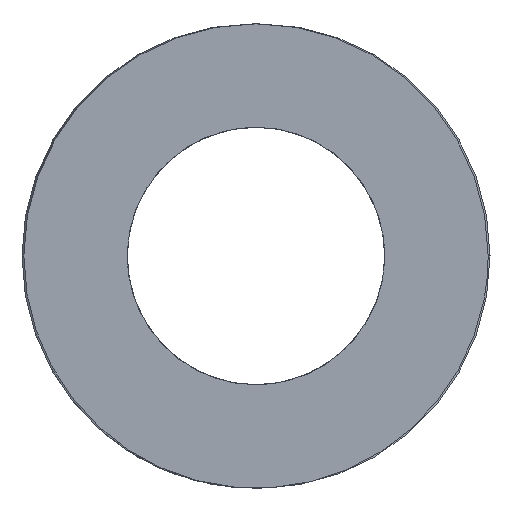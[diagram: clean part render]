
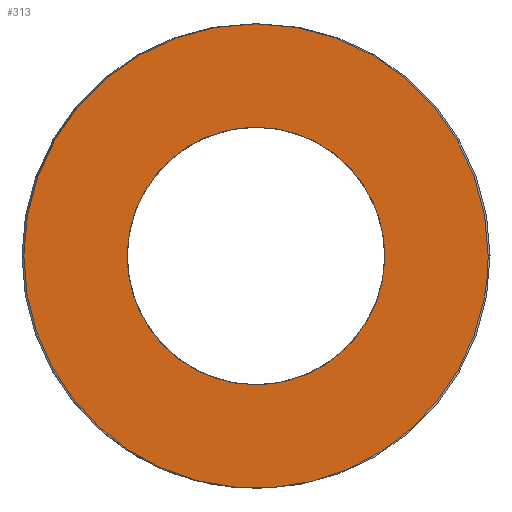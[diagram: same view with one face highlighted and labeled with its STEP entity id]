
A CAD part, left-side view. The second image highlights one B-rep face of the part: STEP entity #313.
In plain terms, the highlighted planar face has unit normal (-1, 0, 0).
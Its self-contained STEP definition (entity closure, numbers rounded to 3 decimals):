
#63=CARTESIAN_POINT('Vertex',(0.,9.2,0.)) ;
#89=CARTESIAN_POINT('Vertex',(0.,-9.2,0.)) ;
#93=CARTESIAN_POINT('Control Point',(0.,9.2,0.)) ;
#94=CARTESIAN_POINT('Control Point',(0.,9.2,-1.445)) ;
#95=CARTESIAN_POINT('Control Point',(0.,8.916,-2.89)) ;
#96=CARTESIAN_POINT('Control Point',(0.,8.348,-4.261)) ;
#97=CARTESIAN_POINT('Control Point',(0.,6.706,-6.706)) ;
#98=CARTESIAN_POINT('Control Point',(0.,4.261,-8.348)) ;
#99=CARTESIAN_POINT('Control Point',(0.,2.89,-8.916)) ;
#100=CARTESIAN_POINT('Control Point',(0.,0.,-9.484)) ;
#101=CARTESIAN_POINT('Control Point',(0.,-2.89,-8.916)) ;
#102=CARTESIAN_POINT('Control Point',(0.,-4.261,-8.348)) ;
#103=CARTESIAN_POINT('Control Point',(0.,-6.706,-6.706)) ;
#104=CARTESIAN_POINT('Control Point',(0.,-8.348,-4.261)) ;
#105=CARTESIAN_POINT('Control Point',(0.,-8.916,-2.89)) ;
#106=CARTESIAN_POINT('Control Point',(0.,-9.2,-1.445)) ;
#107=CARTESIAN_POINT('Control Point',(0.,-9.2,0.)) ;
#121=CARTESIAN_POINT('Axis2P3D Location',(0.,0.,0.)) ;
#250=CARTESIAN_POINT('Axis2P3D Location',(0.,4.6,0.)) ;
#260=CARTESIAN_POINT('Control Point',(0.,0.,-5.1)) ;
#261=CARTESIAN_POINT('Control Point',(0.,0.553,-5.1)) ;
#262=CARTESIAN_POINT('Control Point',(0.,1.106,-5.025)) ;
#263=CARTESIAN_POINT('Control Point',(0.,1.646,-4.875)) ;
#264=CARTESIAN_POINT('Control Point',(0.,2.671,-4.432)) ;
#265=CARTESIAN_POINT('Control Point',(0.,3.541,-3.733)) ;
#266=CARTESIAN_POINT('Control Point',(0.,3.926,-3.326)) ;
#267=CARTESIAN_POINT('Control Point',(0.,4.575,-2.418)) ;
#268=CARTESIAN_POINT('Control Point',(0.,4.96,-1.37)) ;
#269=CARTESIAN_POINT('Control Point',(0.,5.079,-0.822)) ;
#270=CARTESIAN_POINT('Control Point',(0.,5.167,0.291)) ;
#271=CARTESIAN_POINT('Control Point',(0.,4.955,1.387)) ;
#272=CARTESIAN_POINT('Control Point',(0.,4.775,1.917)) ;
#273=CARTESIAN_POINT('Control Point',(0.,4.275,2.916)) ;
#274=CARTESIAN_POINT('Control Point',(0.,3.528,3.745)) ;
#275=CARTESIAN_POINT('Control Point',(0.,3.1,4.106)) ;
#276=CARTESIAN_POINT('Control Point',(0.,2.255,4.642)) ;
#277=CARTESIAN_POINT('Control Point',(0.,1.309,4.959)) ;
#278=CARTESIAN_POINT('Control Point',(0.,0.877,5.053)) ;
#279=CARTESIAN_POINT('Control Point',(0.,0.439,5.1)) ;
#280=CARTESIAN_POINT('Control Point',(0.,0.,5.1)) ;
#281=CARTESIAN_POINT('Vertex',(0.,0.,-5.1)) ;
#283=CARTESIAN_POINT('Vertex',(0.,0.,5.1)) ;
#287=CARTESIAN_POINT('Control Point',(0.,0.,5.1)) ;
#288=CARTESIAN_POINT('Control Point',(0.,-0.553,5.1)) ;
#289=CARTESIAN_POINT('Control Point',(0.,-1.106,5.025)) ;
#290=CARTESIAN_POINT('Control Point',(0.,-1.646,4.875)) ;
#291=CARTESIAN_POINT('Control Point',(0.,-2.671,4.432)) ;
#292=CARTESIAN_POINT('Control Point',(0.,-3.541,3.733)) ;
#293=CARTESIAN_POINT('Control Point',(0.,-3.926,3.326)) ;
#294=CARTESIAN_POINT('Control Point',(0.,-4.575,2.418)) ;
#295=CARTESIAN_POINT('Control Point',(0.,-4.96,1.37)) ;
#296=CARTESIAN_POINT('Control Point',(0.,-5.079,0.822)) ;
#297=CARTESIAN_POINT('Control Point',(0.,-5.167,-0.291)) ;
#298=CARTESIAN_POINT('Control Point',(0.,-4.955,-1.387)) ;
#299=CARTESIAN_POINT('Control Point',(0.,-4.775,-1.917)) ;
#300=CARTESIAN_POINT('Control Point',(0.,-4.275,-2.916)) ;
#301=CARTESIAN_POINT('Control Point',(0.,-3.528,-3.745)) ;
#302=CARTESIAN_POINT('Control Point',(0.,-3.1,-4.106)) ;
#303=CARTESIAN_POINT('Control Point',(0.,-2.255,-4.642)) ;
#304=CARTESIAN_POINT('Control Point',(0.,-1.309,-4.959)) ;
#305=CARTESIAN_POINT('Control Point',(0.,-0.877,-5.053)) ;
#306=CARTESIAN_POINT('Control Point',(0.,-0.439,-5.1)) ;
#307=CARTESIAN_POINT('Control Point',(0.,0.,-5.1)) ;
#122=DIRECTION('Axis2P3D Direction',(1.,-0.,0.)) ;
#251=DIRECTION('Axis2P3D Direction',(-1.,0.,0.)) ;
#252=DIRECTION('Axis2P3D XDirection',(0.,1.,0.)) ;
#123=AXIS2_PLACEMENT_3D('Circle Axis2P3D',#121,#122,$) ;
#253=AXIS2_PLACEMENT_3D('Plane Axis2P3D',#250,#251,#252) ;
#256=ORIENTED_EDGE('',*,*,#108,.T.) ;
#257=ORIENTED_EDGE('',*,*,#125,.T.) ;
#310=ORIENTED_EDGE('',*,*,#285,.T.) ;
#311=ORIENTED_EDGE('',*,*,#308,.T.) ;
#312=FACE_BOUND('',#309,.T.) ;
#313=ADVANCED_FACE('392-B20-305',(#258,#312),#254,.T.) ;
#92=B_SPLINE_CURVE_WITH_KNOTS('',5,(#93,#94,#95,#96,#97,#98,#99,#100,#101,#102,#103,#104,#105,#106,#107),.UNSPECIFIED.,.F.,.U.,(6,3,3,3,6),(-14.451,-7.226,0.,7.226,14.451),.UNSPECIFIED.) ;
#259=B_SPLINE_CURVE_WITH_KNOTS('',5,(#260,#261,#262,#263,#264,#265,#266,#267,#268,#269,#270,#271,#272,#273,#274,#275,#276,#277,#278,#279,#280),.UNSPECIFIED.,.F.,.U.,(6,3,3,3,3,3,6),(0.,3.911,7.823,11.734,15.646,19.557,22.658),.UNSPECIFIED.) ;
#286=B_SPLINE_CURVE_WITH_KNOTS('',5,(#287,#288,#289,#290,#291,#292,#293,#294,#295,#296,#297,#298,#299,#300,#301,#302,#303,#304,#305,#306,#307),.UNSPECIFIED.,.F.,.U.,(6,3,3,3,3,3,6),(0.,3.911,7.823,11.734,15.646,19.557,22.658),.UNSPECIFIED.) ;
#124=CIRCLE('generated circle',#123,9.2) ;
#108=EDGE_CURVE('',#64,#90,#92,.T.) ;
#125=EDGE_CURVE('',#90,#64,#124,.F.) ;
#285=EDGE_CURVE('',#282,#284,#259,.T.) ;
#308=EDGE_CURVE('',#284,#282,#286,.T.) ;
#255=EDGE_LOOP('',(#256,#257)) ;
#309=EDGE_LOOP('',(#310,#311)) ;
#258=FACE_OUTER_BOUND('',#255,.T.) ;
#254=PLANE('Plane',#253) ;
#64=VERTEX_POINT('',#63) ;
#90=VERTEX_POINT('',#89) ;
#282=VERTEX_POINT('',#281) ;
#284=VERTEX_POINT('',#283) ;
